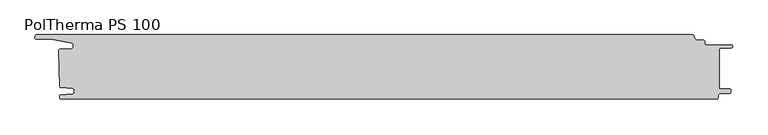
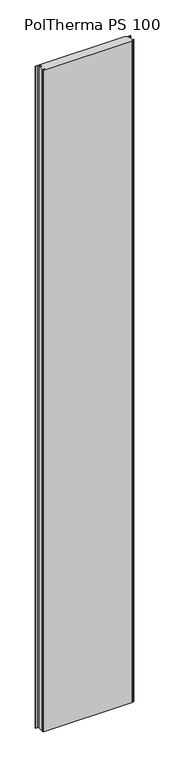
"""IFC4 building model written with IfcOpenShell, lengths in millimetres: plate geometry, Europanels_Poltherma PS_Vt : PolTherma PS 100."""

from ifc_helpers import new_model, si_unit, frame, origin, place, context, project, spatial, polyline, circle_curve, source, transform, mapped, element, save
from ifc_brep_helpers import plane_surface, cylinder_surface, revolved_surface, advanced_brep


def poltherma_ps_100_319f2d1b(model_context):
    return source(origin(), model_context, "Body", "AdvancedBrep", [
        advanced_brep(
        [(509.7385671, 50.0, 8000.0), (-508.8088808, 50.0, 8000.0), (-510.92762, 48.2152999, 8000.0), (-511.3414131, 45.8152999, 8000.0), (-509.2226739, 43.3, 8000.0), (-486.5443331, 43.3, 8000.0), (-453.9076538, 36.9690493, 8000.0), (-451.7623009, 34.3675437, 8000.0), (-451.7623009, 30.9832499, 8000.0), (-454.2261335, 28.3397973, 8000.0), (-472.0026646, 27.6798185, 8000.0), (-474.2654776, 25.3314364, 8000.0), (-472.7654776, -30.5974015, 8000.0), (-471.2018688, -32.337447, 8000.0), (-452.9427732, -33.3900718, 8000.0), (-450.2623009, -36.3730069, 8000.0), (-450.2623009, -39.3216758, 8000.0), (-452.9565739, -42.306057, 8000.0), (-470.9692956, -43.2805625, 8000.0), (-472.7654776, -45.27015, 8000.0), (-472.7654776, -47.9973085, 8000.0), (-470.7654776, -49.9973085, 8000.0), (547.2367317, -50.0, 8000.0), (549.2367317, -47.9973085, 8000.0), (549.2367317, -44.2360976, 8000.0), (551.1073545, -42.2402866, 8000.0), (567.3661089, -41.1863232, 8000.0), (569.2367317, -39.1905122, 8000.0), (569.2367317, -36.4412711, 8000.0), (567.3261148, -34.4432694, 8000.0), (550.7367317, -33.7011224, 8000.0), (550.7367317, 26.3385145, 8000.0), (553.281124, 28.9864093, 8000.0), (569.7991515, 29.6563291, 8000.0), (571.7426809, 31.7583212, 8000.0), (569.6405901, 33.9745062, 8000.0), (531.0271022, 34.0, 8000.0), (528.3771022, 36.65, 8000.0), (528.3771022, 39.65, 8000.0), (526.0271022, 42.0, 8000.0), (515.4574109, 42.0, 8000.0), (513.0968219, 43.7941649, 8000.0), (511.8101044, 48.4255288, 8000.0), (509.7385671, 50.0, 0.0), (511.8101044, 48.4255288, 0.0), (513.0968219, 43.7941649, 0.0), (515.4574109, 42.0, 0.0), (526.0271022, 42.0, 0.0), (528.3771022, 39.65, 0.0), (528.3771022, 36.65, 0.0), (531.0271022, 34.0, 0.0), (569.6367317, 34.0, 0.0), (571.7426809, 31.7583212, 0.0), (569.7991515, 29.6563291, 0.0), (553.281124, 28.9864093, 0.0), (550.7367317, 26.3385145, 0.0), (550.7367317, -33.7011224, 0.0), (567.3261148, -34.4432694, 0.0), (569.2367317, -36.4412711, 0.0), (569.2367317, -39.1905122, 0.0), (567.3661089, -41.1863232, 0.0), (551.1073545, -42.2402866, 0.0), (549.2367317, -44.2360976, 0.0), (549.2367317, -47.9973085, 0.0), (547.2367317, -49.9973085, 0.0), (-470.7654776, -50.0, 0.0), (-472.7654776, -47.9973085, 0.0), (-472.7654776, -45.27015, 0.0), (-470.9692956, -43.2805625, 0.0), (-452.9565739, -42.306057, 0.0), (-450.2623009, -39.3216758, 0.0), (-450.2623009, -36.3730069, 0.0), (-452.9427732, -33.3900718, 0.0), (-471.2018688, -32.337447, 0.0), (-472.7654776, -30.5974015, 0.0), (-474.2654776, 25.3314364, 0.0), (-472.0026646, 27.6798185, 0.0), (-454.2261335, 28.3397973, 0.0), (-451.7623009, 30.9832499, 0.0), (-451.7623009, 34.3675437, 0.0), (-453.9076538, 36.9690493, 0.0), (-486.5443331, 43.3, 0.0), (-509.2226739, 43.3, 0.0), (-511.3414131, 45.8152999, 0.0), (-510.92762, 48.2152999, 0.0), (-508.8088808, 50.0, 0.0)],
        [
            (0, 1),
            (1, 2, circle_curve(frame((-508.8088808, 47.85, 8000.0), z_axis=(0.0, 0.0, 1.0), x_axis=(1.0, 0.0, 0.0)), 2.15)),
            (2, 3),
            (3, 4, circle_curve(frame((-509.2226739, 45.45, 8000.0), z_axis=(0.0, 0.0, 1.0), x_axis=(1.0, 0.0, 0.0)), 2.15)),
            (4, 5),
            (5, 6),
            (6, 7, circle_curve(frame((-454.4123009, 34.3675437, 8000.0), z_axis=(0.0, 0.0, -1.0), x_axis=(1.0, 0.0, 0.0)), 2.65)),
            (7, 8),
            (8, 9, circle_curve(frame((-454.4123009, 30.9832499, 8000.0), z_axis=(0.0, 0.0, -1.0), x_axis=(1.0, 0.0, 0.0)), 2.65)),
            (9, 10),
            (10, 11, circle_curve(frame((-471.9154776, 25.3314364, 8000.0), z_axis=(0.0, 0.0, 1.0), x_axis=(1.0, 0.0, 0.0)), 2.35)),
            (11, 12),
            (12, 13, circle_curve(frame((-471.0154776, -30.5974015, 8000.0), z_axis=(0.0, 0.0, 1.0), x_axis=(1.0, 0.0, 0.0)), 1.75)),
            (13, 14),
            (14, 15, circle_curve(frame((-453.2623009, -36.3730069, 8000.0), z_axis=(0.0, 0.0, -1.0), x_axis=(1.0, 0.0, 0.0)), 3.0)),
            (15, 16),
            (16, 17, circle_curve(frame((-453.2623009, -39.3216758, 8000.0), z_axis=(0.0, 0.0, -1.0), x_axis=(1.0, 0.0, 0.0)), 3.0)),
            (17, 18),
            (18, 19, circle_curve(frame((-470.7654776, -45.27015, 8000.0), z_axis=(0.0, 0.0, 1.0), x_axis=(1.0, 0.0, 0.0)), 2.0)),
            (19, 20),
            (20, 21, circle_curve(frame((-470.7654776, -47.9973085, 8000.0), z_axis=(0.0, 0.0, 1.0), x_axis=(1.0, 0.0, 0.0)), 2.0)),
            (21, 22),
            (22, 23, circle_curve(frame((547.2367317, -47.9973085, 8000.0), z_axis=(0.0, 0.0, 1.0), x_axis=(1.0, 0.0, 0.0)), 2.0)),
            (23, 24),
            (24, 25, circle_curve(frame((551.2367317, -44.2360976, 8000.0), z_axis=(0.0, 0.0, -1.0), x_axis=(1.0, 0.0, 0.0)), 2.0)),
            (25, 26),
            (26, 27, circle_curve(frame((567.2367317, -39.1905122, 8000.0), z_axis=(0.0, 0.0, 1.0), x_axis=(1.0, 0.0, 0.0)), 2.0)),
            (27, 28),
            (28, 29, circle_curve(frame((567.2367317, -36.4412711, 8000.0), z_axis=(0.0, 0.0, 1.0), x_axis=(1.0, 0.0, 0.0)), 2.0)),
            (29, 30),
            (30, 31),
            (31, 32, circle_curve(frame((553.3867317, 26.3385145, 8000.0), z_axis=(0.0, 0.0, -1.0), x_axis=(1.0, 0.0, 0.0)), 2.65)),
            (32, 33),
            (33, 34, circle_curve(frame((569.6342288, 31.7583212, 8000.0), z_axis=(0.0, 0.0, 1.0), x_axis=(1.0, 0.0, 0.0)), 2.1084521)),
            (34, 35, circle_curve(frame((569.6405901, 31.8694785, 8000.0), z_axis=(0.0, 0.0, 1.0), x_axis=(1.0, 0.0, 0.0)), 2.1050276)),
            (35, 36),
            (36, 37, circle_curve(frame((531.0271022, 36.65, 8000.0), z_axis=(0.0, 0.0, -1.0), x_axis=(1.0, 0.0, 0.0)), 2.65)),
            (37, 38),
            (38, 39, circle_curve(frame((526.0271022, 39.65, 8000.0), z_axis=(0.0, 0.0, 1.0), x_axis=(1.0, 0.0, 0.0)), 2.35)),
            (39, 40),
            (40, 41, circle_curve(frame((515.4574109, 44.45, 8000.0), z_axis=(0.0, 0.0, -1.0), x_axis=(1.0, 0.0, 0.0)), 2.45)),
            (41, 42),
            (42, 0, circle_curve(frame((509.7385671, 47.85, 8000.0), z_axis=(0.0, 0.0, 1.0), x_axis=(1.0, 0.0, 0.0)), 2.15)),
            (43, 44, circle_curve(frame((509.7385671, 47.85, 0.0), z_axis=(0.0, 0.0, -1.0), x_axis=(1.0, 0.0, 0.0)), 2.15)),
            (44, 45),
            (45, 46, circle_curve(frame((515.4574109, 44.45, 0.0), z_axis=(0.0, 0.0, 1.0), x_axis=(1.0, 0.0, 0.0)), 2.45)),
            (46, 47),
            (47, 48, circle_curve(frame((526.0271022, 39.65, 0.0), z_axis=(0.0, 0.0, -1.0), x_axis=(1.0, 0.0, 0.0)), 2.35)),
            (48, 49),
            (49, 50, circle_curve(frame((531.0271022, 36.65, 0.0), z_axis=(0.0, 0.0, 1.0), x_axis=(1.0, 0.0, 0.0)), 2.65)),
            (50, 51),
            (51, 52, circle_curve(frame((569.6405901, 31.8694785, 0.0), z_axis=(0.0, 0.0, -1.0), x_axis=(1.0, 0.0, 0.0)), 2.1050276)),
            (52, 53, circle_curve(frame((569.6342288, 31.7583212, 0.0), z_axis=(0.0, 0.0, -1.0), x_axis=(1.0, 0.0, 0.0)), 2.1084521)),
            (53, 54),
            (54, 55, circle_curve(frame((553.3867317, 26.3385145, 0.0), z_axis=(0.0, 0.0, 1.0), x_axis=(1.0, 0.0, 0.0)), 2.65)),
            (55, 56),
            (56, 57),
            (57, 58, circle_curve(frame((567.2367317, -36.4412711, 0.0), z_axis=(0.0, 0.0, -1.0), x_axis=(1.0, 0.0, 0.0)), 2.0)),
            (58, 59),
            (59, 60, circle_curve(frame((567.2367317, -39.1905122, 0.0), z_axis=(0.0, 0.0, -1.0), x_axis=(1.0, 0.0, 0.0)), 2.0)),
            (60, 61),
            (61, 62, circle_curve(frame((551.2367317, -44.2360976, 0.0), z_axis=(0.0, 0.0, 1.0), x_axis=(1.0, 0.0, 0.0)), 2.0)),
            (62, 63),
            (63, 64, circle_curve(frame((547.2367317, -47.9973085, 0.0), z_axis=(0.0, 0.0, -1.0), x_axis=(1.0, 0.0, 0.0)), 2.0)),
            (64, 65),
            (65, 66, circle_curve(frame((-470.7654776, -47.9973085, 0.0), z_axis=(0.0, 0.0, -1.0), x_axis=(1.0, 0.0, 0.0)), 2.0)),
            (66, 67),
            (67, 68, circle_curve(frame((-470.7654776, -45.27015, 0.0), z_axis=(0.0, 0.0, -1.0), x_axis=(1.0, 0.0, 0.0)), 2.0)),
            (68, 69),
            (69, 70, circle_curve(frame((-453.2623009, -39.3216758, 0.0), z_axis=(0.0, 0.0, 1.0), x_axis=(1.0, 0.0, 0.0)), 3.0)),
            (70, 71),
            (71, 72, circle_curve(frame((-453.2623009, -36.3730069, 0.0), z_axis=(0.0, 0.0, 1.0), x_axis=(1.0, 0.0, 0.0)), 3.0)),
            (72, 73),
            (73, 74, circle_curve(frame((-471.0154776, -30.5974015, 0.0), z_axis=(0.0, 0.0, -1.0), x_axis=(1.0, 0.0, 0.0)), 1.75)),
            (74, 75),
            (75, 76, circle_curve(frame((-471.9154776, 25.3314364, 0.0), z_axis=(0.0, 0.0, -1.0), x_axis=(1.0, 0.0, 0.0)), 2.35)),
            (76, 77),
            (77, 78, circle_curve(frame((-454.4123009, 30.9832499, 0.0), z_axis=(0.0, 0.0, 1.0), x_axis=(1.0, 0.0, 0.0)), 2.65)),
            (78, 79),
            (79, 80, circle_curve(frame((-454.4123009, 34.3675437, 0.0), z_axis=(0.0, 0.0, 1.0), x_axis=(1.0, 0.0, 0.0)), 2.65)),
            (80, 81),
            (81, 82),
            (82, 83, circle_curve(frame((-509.2226739, 45.45, 0.0), z_axis=(0.0, 0.0, -1.0), x_axis=(1.0, 0.0, 0.0)), 2.15)),
            (83, 84),
            (84, 85, circle_curve(frame((-508.8088808, 47.85, 0.0), z_axis=(0.0, 0.0, -1.0), x_axis=(1.0, 0.0, 0.0)), 2.15)),
            (85, 43),
            (0, 43),
            (85, 1),
            (21, 65),
            (64, 22),
            (84, 2),
            (83, 3),
            (82, 4),
            (81, 5),
            (80, 6),
            (79, 7),
            (78, 8),
            (77, 9),
            (76, 10),
            (75, 11),
            (74, 12),
            (73, 13),
            (72, 14),
            (71, 15),
            (70, 16),
            (69, 17),
            (68, 18),
            (67, 19),
            (66, 20),
            (63, 23),
            (62, 24),
            (61, 25),
            (60, 26),
            (59, 27),
            (58, 28),
            (57, 29),
            (56, 30),
            (55, 31),
            (54, 32),
            (53, 33),
            (52, 34),
            (51, 35),
            (50, 36),
            (49, 37),
            (48, 38),
            (47, 39),
            (46, 40),
            (45, 41),
            (44, 42),
        ],
        [
            plane_surface(frame((-508.8088808, 50.0, 8000.0), z_axis=(0.0, 0.0, 1.0), x_axis=(-1.0, 0.0, 0.0))),
            plane_surface(frame((-508.8088808, 50.0, 0.0), z_axis=(0.0, 0.0, -1.0), x_axis=(1.0, 0.0, 0.0))),
            plane_surface(frame((509.7385671, 50.0, 8000.0), z_axis=(0.0, 1.0, 0.0), x_axis=(0.0, 0.0, -1.0))),
            plane_surface(frame((-470.7654776, -50.0, 8000.0), z_axis=(0.0, -1.0, 0.0), x_axis=(0.0, 0.0, -1.0))),
            cylinder_surface(frame((-508.8088808, 47.85, 0.0), z_axis=(0.0, 0.0, 1.0), x_axis=(1.0, 0.0, 0.0)), 2.15),
            plane_surface(frame((-510.92762, 48.2152999, 8000.0), z_axis=(-0.9854601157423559, 0.16990691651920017, 0.0), x_axis=(0.0, 0.0, -1.0))),
            cylinder_surface(frame((-509.2226739, 45.45, 0.0), z_axis=(0.0, 0.0, 1.0), x_axis=(1.0, 0.0, 0.0)), 2.15),
            plane_surface(frame((-509.2226739, 43.3, 8000.0), z_axis=(0.0, -1.0, 0.0), x_axis=(0.0, 0.0, -1.0))),
            plane_surface(frame((-486.5443331, 43.3, 8000.0), z_axis=(-0.1904328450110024, -0.9817002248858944, 0.0), x_axis=(0.0, 0.0, -1.0))),
            revolved_surface(polyline([(-451.7623009, 34.3675437, 0.0), (-451.7623009, 34.3675437, 8000.0)]), (-454.4123009, 34.3675437, 0.0), (0.0, 0.0, -1.0)),
            plane_surface(frame((-451.7623009, 34.3675437, 8000.0), z_axis=(-1.0, 3.1196920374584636e-12, 0.0), x_axis=(0.0, 0.0, -1.0))),
            revolved_surface(polyline([(-451.7623009, 30.9832499, 0.0), (-451.7623009, 30.9832499, 8000.0)]), (-454.4123009, 30.9832499, 0.0), (0.0, 0.0, -1.0)),
            plane_surface(frame((-454.2261335, 28.3397973, 8000.0), z_axis=(-0.037100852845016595, 0.9993115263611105, 0.0), x_axis=(0.0, 0.0, -1.0))),
            cylinder_surface(frame((-471.9154776, 25.3314364, 0.0), z_axis=(0.0, 0.0, 1.0), x_axis=(1.0, 0.0, 0.0)), 2.35),
            plane_surface(frame((-474.2654776, 25.3314364, 8000.0), z_axis=(-0.9996405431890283, -0.02681015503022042, 0.0), x_axis=(0.0, 0.0, -1.0))),
            cylinder_surface(frame((-471.0154776, -30.5974015, 0.0), z_axis=(0.0, 0.0, 1.0), x_axis=(1.0, 0.0, 0.0)), 1.75),
            plane_surface(frame((-471.2018688, -32.337447, 8000.0), z_axis=(-0.05755377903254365, -0.9983424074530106, 0.0), x_axis=(0.0, 0.0, -1.0))),
            revolved_surface(polyline([(-450.2623009, -36.3730069, 0.0), (-450.2623009, -36.3730069, 8000.0)]), (-453.2623009, -36.3730069, 0.0), (0.0, 0.0, -1.0)),
            plane_surface(frame((-450.2623009, -36.3730069, 8000.0), z_axis=(-1.0, 0.0, 0.0), x_axis=(0.0, 0.0, -1.0))),
            revolved_surface(polyline([(-450.2623009, -39.3216758, 0.0), (-450.2623009, -39.3216758, 8000.0)]), (-453.2623009, -39.3216758, 0.0), (0.0, 0.0, -1.0)),
            plane_surface(frame((-452.9565739, -42.306057, 8000.0), z_axis=(-0.054021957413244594, 0.9985397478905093, 0.0), x_axis=(0.0, 0.0, -1.0))),
            cylinder_surface(frame((-470.7654776, -45.27015, 0.0), z_axis=(0.0, 0.0, 1.0), x_axis=(1.0, 0.0, 0.0)), 2.0),
            plane_surface(frame((-472.7654776, -45.27015, 8000.0), z_axis=(-1.0, 0.0, 0.0), x_axis=(0.0, 0.0, -1.0))),
            cylinder_surface(frame((-470.7654776, -47.9973085, 0.0), z_axis=(0.0, 0.0, 1.0), x_axis=(1.0, 0.0, 0.0)), 2.0),
            cylinder_surface(frame((547.2367317, -47.9973085, 0.0), z_axis=(0.0, 0.0, 1.0), x_axis=(1.0, 0.0, 0.0)), 2.0),
            plane_surface(frame((549.2367317, -47.9973085, 8000.0), z_axis=(1.0, 0.0, 0.0), x_axis=(0.0, 0.0, -1.0))),
            revolved_surface(polyline([(553.2367317, -44.2360976, 0.0), (553.2367317, -44.2360976, 8000.0)]), (551.2367317, -44.2360976, 0.0), (0.0, 0.0, -1.0)),
            plane_surface(frame((551.1073545, -42.2402866, 8000.0), z_axis=(0.06468859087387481, -0.9979054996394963, 0.0), x_axis=(0.0, 0.0, -1.0))),
            cylinder_surface(frame((567.2367317, -39.1905122, 0.0), z_axis=(0.0, 0.0, 1.0), x_axis=(1.0, 0.0, 0.0)), 2.0),
            plane_surface(frame((569.2367317, -39.1905122, 8000.0), z_axis=(1.0, 0.0, 0.0), x_axis=(0.0, 0.0, -1.0))),
            cylinder_surface(frame((567.2367317, -36.4412711, 0.0), z_axis=(0.0, 0.0, 1.0), x_axis=(1.0, 0.0, 0.0)), 2.0),
            plane_surface(frame((567.3261148, -34.4432694, 8000.0), z_axis=(0.04469156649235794, 0.9990008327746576, 0.0), x_axis=(0.0, 0.0, -1.0))),
            plane_surface(frame((550.7367317, -33.7011224, 8000.0), z_axis=(1.0, 0.0, 0.0), x_axis=(0.0, 0.0, -1.0))),
            revolved_surface(polyline([(556.0367317, 26.3385145, 0.0), (556.0367317, 26.3385145, 8000.0)]), (553.3867317, 26.3385145, 0.0), (0.0, 0.0, -1.0)),
            plane_surface(frame((553.281124, 28.9864093, 8000.0), z_axis=(0.04052357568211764, -0.9991785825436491, 0.0), x_axis=(0.0, 0.0, -1.0))),
            cylinder_surface(frame((569.6342288, 31.7583212, 0.0), z_axis=(0.0, 0.0, 1.0), x_axis=(1.0, 0.0, 0.0)), 2.1084521),
            cylinder_surface(frame((569.6405901, 31.8694785, 0.0), z_axis=(0.0, 0.0, 1.0), x_axis=(1.0, 0.0, 0.0)), 2.1050276),
            plane_surface(frame((569.6367317, 34.0, 8000.0), z_axis=(0.0, 1.0, 0.0), x_axis=(0.0, 0.0, -1.0))),
            revolved_surface(polyline([(533.6771021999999, 36.65, 0.0), (533.6771021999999, 36.65, 8000.0)]), (531.0271022, 36.65, 0.0), (0.0, 0.0, -1.0)),
            plane_surface(frame((528.3771022, 36.65, 8000.0), z_axis=(1.0, 0.0, 0.0), x_axis=(0.0, 0.0, -1.0))),
            cylinder_surface(frame((526.0271022, 39.65, 0.0), z_axis=(0.0, 0.0, 1.0), x_axis=(1.0, 0.0, 0.0)), 2.35),
            plane_surface(frame((526.0271022, 42.0, 8000.0), z_axis=(0.0, 1.0, 0.0), x_axis=(0.0, 0.0, -1.0))),
            revolved_surface(polyline([(517.9074109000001, 44.45, 0.0), (517.9074109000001, 44.45, 8000.0)]), (515.4574109, 44.45, 0.0), (0.0, 0.0, -1.0)),
            plane_surface(frame((513.0968219, 43.7941649, 8000.0), z_axis=(0.9635057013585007, 0.2676878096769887, 0.0), x_axis=(0.0, 0.0, -1.0))),
            cylinder_surface(frame((509.7385671, 47.85, 0.0), z_axis=(0.0, 0.0, 1.0), x_axis=(1.0, 0.0, 0.0)), 2.15),
        ],
        [
            (0, [[1, 2, 3, 4, 5, 6, 7, 8, 9, 10, 11, 12, 13, 14, 15, 16, 17, 18, 19, 20, 21, 22, 23, 24, 25, 26, 27, 28, 29, 30, 31, 32, 33, 34, 35, 36, 37, 38, 39, 40, 41, 42, 43]]),
            (1, [[44, 45, 46, 47, 48, 49, 50, 51, 52, 53, 54, 55, 56, 57, 58, 59, 60, 61, 62, 63, 64, 65, 66, 67, 68, 69, 70, 71, 72, 73, 74, 75, 76, 77, 78, 79, 80, 81, 82, 83, 84, 85, 86]]),
            (2, [[-1, 87, -86, 88]]),
            (3, [[-22, 89, -65, 90]]),
            (4, [[-2, -88, -85, 91]]),
            (5, [[-3, -91, -84, 92]]),
            (6, [[-4, -92, -83, 93]]),
            (7, [[-5, -93, -82, 94]]),
            (8, [[-6, -94, -81, 95]]),
            (9, [[-7, -95, -80, 96]]),
            (10, [[-8, -96, -79, 97]]),
            (11, [[-9, -97, -78, 98]]),
            (12, [[-10, -98, -77, 99]]),
            (13, [[-11, -99, -76, 100]]),
            (14, [[-12, -100, -75, 101]]),
            (15, [[-13, -101, -74, 102]]),
            (16, [[-14, -102, -73, 103]]),
            (17, [[-15, -103, -72, 104]]),
            (18, [[-16, -104, -71, 105]]),
            (19, [[-17, -105, -70, 106]]),
            (20, [[-18, -106, -69, 107]]),
            (21, [[-19, -107, -68, 108]]),
            (22, [[-20, -108, -67, 109]]),
            (23, [[-21, -109, -66, -89]]),
            (24, [[-23, -90, -64, 110]]),
            (25, [[-24, -110, -63, 111]]),
            (26, [[-25, -111, -62, 112]]),
            (27, [[-26, -112, -61, 113]]),
            (28, [[-27, -113, -60, 114]]),
            (29, [[-28, -114, -59, 115]]),
            (30, [[-29, -115, -58, 116]]),
            (31, [[-30, -116, -57, 117]]),
            (32, [[-31, -117, -56, 118]]),
            (33, [[-32, -118, -55, 119]]),
            (34, [[-33, -119, -54, 120]]),
            (35, [[-34, -120, -53, 121]]),
            (36, [[-35, -121, -52, 122]]),
            (37, [[-36, -122, -51, 123]]),
            (38, [[-37, -123, -50, 124]]),
            (39, [[-38, -124, -49, 125]]),
            (40, [[-39, -125, -48, 126]]),
            (41, [[-40, -126, -47, 127]]),
            (42, [[-41, -127, -46, 128]]),
            (43, [[-42, -128, -45, 129]]),
            (44, [[-43, -129, -44, -87]]),
        ],
    ),
    ])


if __name__ == "__main__":
    model = new_model("IFC4")
    model_context = context("Model", 3, world=origin())
    ifc_project = project(units=[si_unit("LENGTHUNIT", "METRE", prefix="MILLI")], contexts=[model_context])
    site = spatial("IfcSite", under=ifc_project)
    building = spatial("IfcBuilding", under=site)
    placement = place(None, origin())
    poltherma_ps_100_shape = poltherma_ps_100_319f2d1b(model_context)
    element("IfcPlate", 1, ObjectType="Europanels_Poltherma PS_Vt : PolTherma PS 100", at=placement, inside=building, context=model_context, shape_type="MappedRepresentation", body=[
        mapped(poltherma_ps_100_shape, transform((0.0, 0.0, 0.0), x_axis=(1.0, 0.0, 0.0), y_axis=(0.0, 1.0, 0.0), z_axis=(0.0, 0.0, 1.0))),
    ])
    save(model, "model.ifc")
